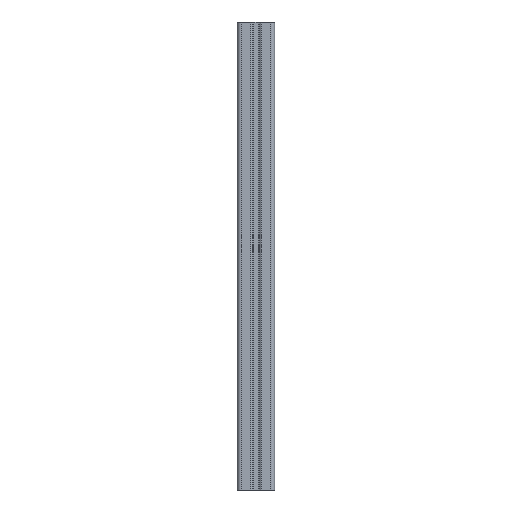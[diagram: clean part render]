
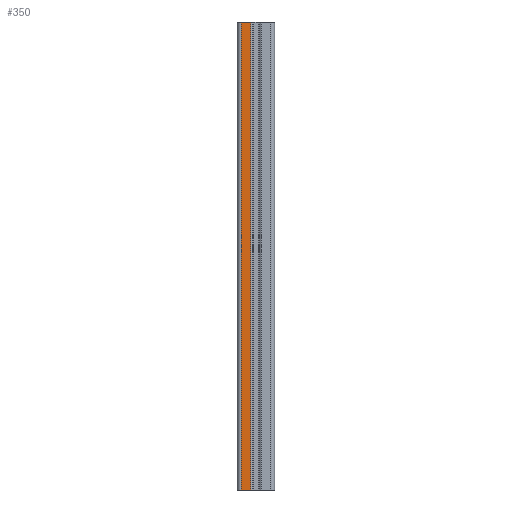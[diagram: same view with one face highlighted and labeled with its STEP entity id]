
A CAD part, left-side view. The second image highlights one B-rep face of the part: STEP entity #350.
In plain terms, the highlighted planar face has unit normal (-1, 0, 0).
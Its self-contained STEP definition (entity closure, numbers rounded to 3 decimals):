
#184 = VERTEX_POINT ( 'NONE', #1056 ) ;
#185 = EDGE_CURVE ( 'NONE', #456, #184, #963, .T. ) ;
#333 = EDGE_LOOP ( 'NONE', ( #371, #358, #346, #347 ) ) ;
#346 = ORIENTED_EDGE ( 'NONE', *, *, #185, .F. ) ;
#347 = ORIENTED_EDGE ( 'NONE', *, *, #357, .T. ) ;
#350 = ADVANCED_FACE ( 'NONE', ( #1507 ), #1533, .F. ) ;
#351 = EDGE_CURVE ( 'NONE', #184, #396, #1482, .T. ) ;
#357 = EDGE_CURVE ( 'NONE', #456, #406, #1535, .T. ) ;
#358 = ORIENTED_EDGE ( 'NONE', *, *, #351, .F. ) ;
#371 = ORIENTED_EDGE ( 'NONE', *, *, #399, .T. ) ;
#396 = VERTEX_POINT ( 'NONE', #1564 ) ;
#399 = EDGE_CURVE ( 'NONE', #406, #396, #1487, .T. ) ;
#406 = VERTEX_POINT ( 'NONE', #1488 ) ;
#456 = VERTEX_POINT ( 'NONE', #1714 ) ;
#961 = DIRECTION ( 'NONE',  ( 0., -1., 0. ) ) ;
#962 = VECTOR ( 'NONE', #961, 1000. ) ;
#963 = LINE ( 'NONE', #1034, #962 ) ;
#1034 = CARTESIAN_POINT ( 'NONE',  ( -20127.161, -16573.816, 500. ) ) ;
#1056 = CARTESIAN_POINT ( 'NONE',  ( -20127.161, -16584.216, 500. ) ) ;
#1478 = DIRECTION ( 'NONE',  ( 1., 0., 0. ) ) ;
#1479 = CARTESIAN_POINT ( 'NONE',  ( -20127.161, -16573.816, 500. ) ) ;
#1481 = CARTESIAN_POINT ( 'NONE',  ( -20127.161, -16584.216, 500. ) ) ;
#1482 = LINE ( 'NONE', #1481, #1580 ) ;
#1484 = DIRECTION ( 'NONE',  ( 0., -1., 0. ) ) ;
#1485 = VECTOR ( 'NONE', #1484, 1000. ) ;
#1486 = CARTESIAN_POINT ( 'NONE',  ( -20127.161, -16573.816, 0. ) ) ;
#1487 = LINE ( 'NONE', #1486, #1485 ) ;
#1488 = CARTESIAN_POINT ( 'NONE',  ( -20127.161, -16573.816, 0. ) ) ;
#1503 = DIRECTION ( 'NONE',  ( 0., 0., -1. ) ) ;
#1505 = AXIS2_PLACEMENT_3D ( 'NONE', #1479, #1478, #1529 ) ;
#1507 = FACE_OUTER_BOUND ( 'NONE', #333, .T. ) ;
#1529 = DIRECTION ( 'NONE',  ( 0., 0., -1. ) ) ;
#1533 = PLANE ( 'NONE',  #1505 ) ;
#1534 = VECTOR ( 'NONE', #1503, 1000. ) ;
#1535 = LINE ( 'NONE', #1538, #1534 ) ;
#1538 = CARTESIAN_POINT ( 'NONE',  ( -20127.161, -16573.816, 500. ) ) ;
#1564 = CARTESIAN_POINT ( 'NONE',  ( -20127.161, -16584.216, 0. ) ) ;
#1579 = DIRECTION ( 'NONE',  ( 0., 0., -1. ) ) ;
#1580 = VECTOR ( 'NONE', #1579, 1000. ) ;
#1714 = CARTESIAN_POINT ( 'NONE',  ( -20127.161, -16573.816, 500. ) ) ;
